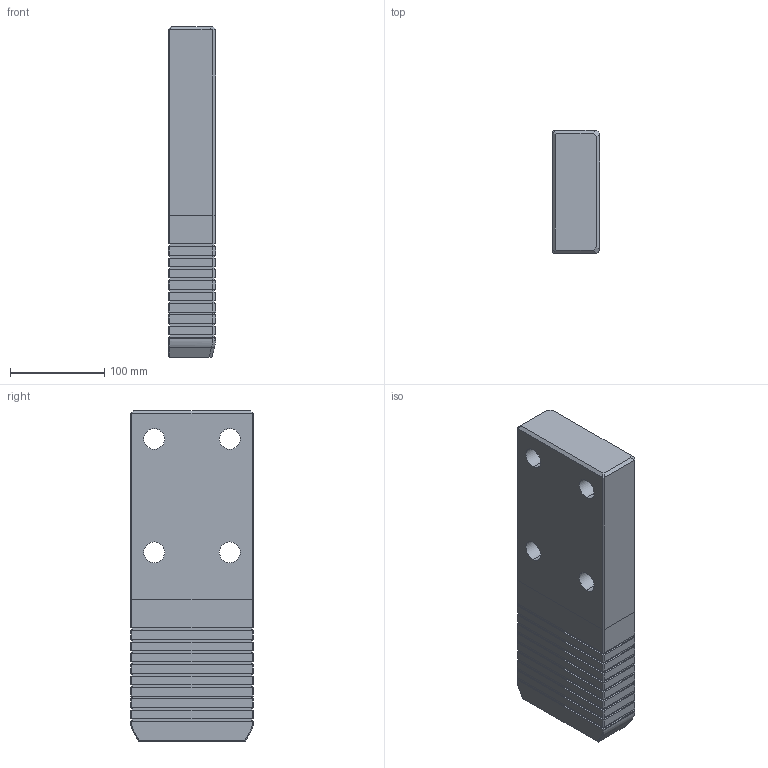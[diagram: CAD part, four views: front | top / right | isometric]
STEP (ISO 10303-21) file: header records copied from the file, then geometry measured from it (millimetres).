
FILE_DESCRIPTION((''),'2;1');
FILE_NAME('','2010-09-22T13:24:04+09:00',('misumi'),(''),'M/STEP i/f 1R2-14','CADmeister v5.1','');
FILE_SCHEMA(('AUTOMOTIVE_DESIGN'));
Length unit declared in the file: millimetre
Products named in the file (1): GWAZ130-350
Bounding box: 50 x 130 x 350 mm (x, y, z)
Volume: 2165862.2 mm3; surface area: 156336.1 mm2
Topology: 1 solids, 1 shells, 218 faces, 571 edges, 374 vertices
Faces by surface type: plane 197, cylinder 13, bspline 6, cone 2
Entity records: 6952 total; most frequent: CARTESIAN_POINT 1504, ORIENTED_EDGE 1138, DIRECTION 1005, EDGE_CURVE 569, LINE 527, VECTOR 527, VERTEX_POINT 372, EDGE_LOOP 245
